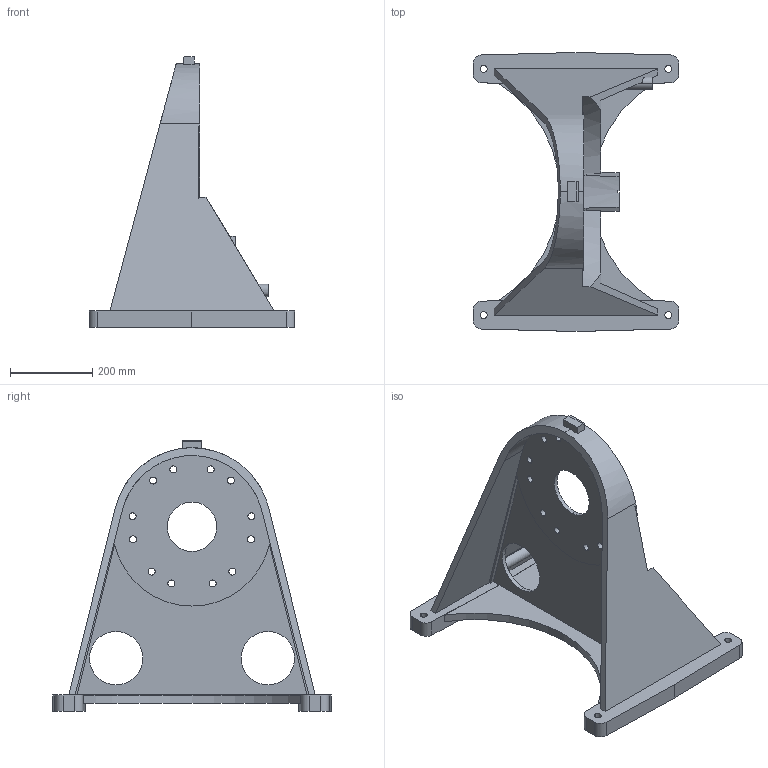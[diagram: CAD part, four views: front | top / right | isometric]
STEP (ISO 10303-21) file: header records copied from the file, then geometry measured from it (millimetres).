
FILE_DESCRIPTION (( 'STEP AP214' ), '1' );
FILE_NAME ('IRB5500_12_T00F71B41V31H51_rev1_1.step', '2006-09-01T12:02:18', ( 'Jonas Eriksson' ), ( '' ), 'SwSTEP 2.0', 'SolidWorks 2004334', '' );
FILE_SCHEMA (( 'AUTOMOTIVE_DESIGN' ));
Length unit declared in the file: millimetre
Products named in the file (1): IRB5500_12_T00F71B41V31H51_rev1_1
Bounding box: 500 x 680 x 660 mm (x, y, z)
Volume: 13326519.7 mm3; surface area: 1438180.3 mm2
Topology: 1 solids, 1 shells, 127 faces, 369 edges, 244 vertices
Faces by surface type: cylinder 66, plane 60, bspline 1
Entity records: 6239 total; most frequent: CARTESIAN_POINT 1282, DIRECTION 751, ORIENTED_EDGE 738, EDGE_CURVE 369, AXIS2_PLACEMENT_3D 268, VERTEX_POINT 244, VECTOR 215, LINE 215
